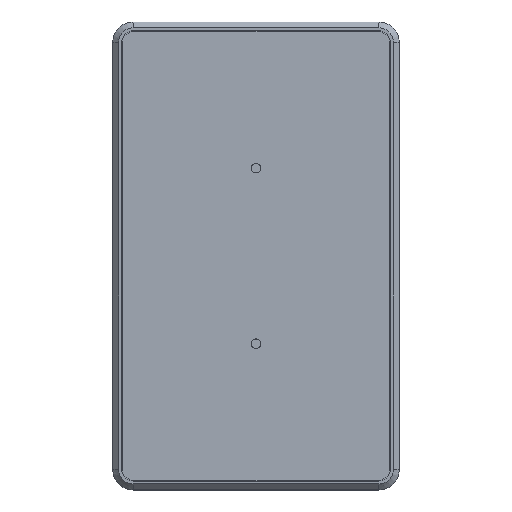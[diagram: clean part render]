
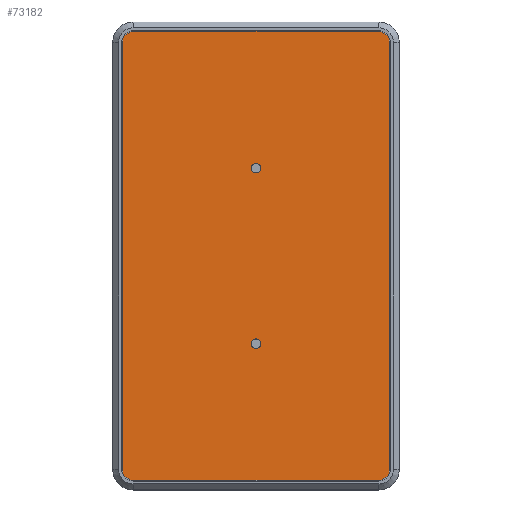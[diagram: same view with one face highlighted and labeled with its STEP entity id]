
A CAD part, top view. The second image highlights one B-rep face of the part: STEP entity #73182.
In plain terms, the highlighted planar face has unit normal (0, 0, 1).
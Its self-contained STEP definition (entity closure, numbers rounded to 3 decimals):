
#1148=FACE_BOUND('',#10978,.T.);
#1149=FACE_BOUND('',#10979,.T.);
#6880=FACE_OUTER_BOUND('',#10977,.T.);
#10977=EDGE_LOOP('',(#62265,#62266,#62267,#62268,#62269,#62270,#62271,#62272));
#10978=EDGE_LOOP('',(#62273));
#10979=EDGE_LOOP('',(#62274));
#17322=LINE('',#137382,#23682);
#17326=LINE('',#137394,#23686);
#17330=LINE('',#137406,#23690);
#17334=LINE('',#137417,#23694);
#23682=VECTOR('',#96233,10.);
#23686=VECTOR('',#96245,10.);
#23690=VECTOR('',#96257,10.);
#23694=VECTOR('',#96269,10.);
#26170=CIRCLE('',#78869,1.621);
#26171=CIRCLE('',#78871,1.621);
#26172=CIRCLE('',#78873,4.);
#26174=CIRCLE('',#78877,4.);
#26176=CIRCLE('',#78881,4.);
#26178=CIRCLE('',#78885,4.);
#32824=VERTEX_POINT('',#137364);
#32825=VERTEX_POINT('',#137368);
#32826=VERTEX_POINT('',#137372);
#32827=VERTEX_POINT('',#137373);
#32830=VERTEX_POINT('',#137381);
#32832=VERTEX_POINT('',#137387);
#32834=VERTEX_POINT('',#137393);
#32836=VERTEX_POINT('',#137399);
#32838=VERTEX_POINT('',#137405);
#32840=VERTEX_POINT('',#137411);
#42757=EDGE_CURVE('',#32824,#32824,#26170,.T.);
#42759=EDGE_CURVE('',#32825,#32825,#26171,.T.);
#42761=EDGE_CURVE('',#32826,#32827,#26172,.T.);
#42765=EDGE_CURVE('',#32827,#32830,#17322,.T.);
#42768=EDGE_CURVE('',#32830,#32832,#26174,.T.);
#42771=EDGE_CURVE('',#32832,#32834,#17326,.T.);
#42774=EDGE_CURVE('',#32834,#32836,#26176,.T.);
#42777=EDGE_CURVE('',#32836,#32838,#17330,.T.);
#42780=EDGE_CURVE('',#32838,#32840,#26178,.T.);
#42783=EDGE_CURVE('',#32840,#32826,#17334,.T.);
#62265=ORIENTED_EDGE('',*,*,#42761,.F.);
#62266=ORIENTED_EDGE('',*,*,#42783,.F.);
#62267=ORIENTED_EDGE('',*,*,#42780,.F.);
#62268=ORIENTED_EDGE('',*,*,#42777,.F.);
#62269=ORIENTED_EDGE('',*,*,#42774,.F.);
#62270=ORIENTED_EDGE('',*,*,#42771,.F.);
#62271=ORIENTED_EDGE('',*,*,#42768,.F.);
#62272=ORIENTED_EDGE('',*,*,#42765,.F.);
#62273=ORIENTED_EDGE('',*,*,#42757,.T.);
#62274=ORIENTED_EDGE('',*,*,#42759,.T.);
#65866=PLANE('',#78888);
#73182=ADVANCED_FACE('',(#6880,#1148,#1149),#65866,.T.);
#78869=AXIS2_PLACEMENT_3D('',#137365,#96215,#96216);
#78871=AXIS2_PLACEMENT_3D('',#137369,#96220,#96221);
#78873=AXIS2_PLACEMENT_3D('',#137374,#96225,#96226);
#78877=AXIS2_PLACEMENT_3D('',#137388,#96238,#96239);
#78881=AXIS2_PLACEMENT_3D('',#137400,#96250,#96251);
#78885=AXIS2_PLACEMENT_3D('',#137412,#96262,#96263);
#78888=AXIS2_PLACEMENT_3D('',#137419,#96271,#96272);
#96215=DIRECTION('center_axis',(0.,0.,
-1.));
#96216=DIRECTION('ref_axis',(1.,0.,0.));
#96220=DIRECTION('center_axis',(0.,0.,
-1.));
#96221=DIRECTION('ref_axis',(1.,0.,0.));
#96225=DIRECTION('center_axis',(0.,0.,
-1.));
#96226=DIRECTION('ref_axis',(-1.,0.,0.));
#96233=DIRECTION('',(0.,1.,0.));
#96238=DIRECTION('center_axis',(0.,0.,
-1.));
#96239=DIRECTION('ref_axis',(0.,1.,0.));
#96245=DIRECTION('',(1.,0.,0.));
#96250=DIRECTION('center_axis',(0.,0.,
-1.));
#96251=DIRECTION('ref_axis',(1.,0.,0.));
#96257=DIRECTION('',(0.,-1.,0.));
#96262=DIRECTION('center_axis',(0.,0.,
-1.));
#96263=DIRECTION('ref_axis',(0.,-1.,0.));
#96269=DIRECTION('',(-1.,0.,0.));
#96271=DIRECTION('center_axis',(0.,0.,
1.));
#96272=DIRECTION('ref_axis',(1.,0.,0.));
#137364=CARTESIAN_POINT('',(47.703,110.89,33.));
#137365=CARTESIAN_POINT('Origin',(49.324,110.89,33.));
#137368=CARTESIAN_POINT('',(47.703,50.89,33.));
#137369=CARTESIAN_POINT('Origin',(49.324,50.89,33.));
#137372=CARTESIAN_POINT('',(7.574,4.14,33.));
#137373=CARTESIAN_POINT('',(3.574,8.14,33.));
#137374=CARTESIAN_POINT('Origin',(7.574,8.14,33.));
#137381=CARTESIAN_POINT('',(3.574,153.64,33.));
#137382=CARTESIAN_POINT('',(3.574,153.64,33.));
#137387=CARTESIAN_POINT('',(7.574,157.64,33.));
#137388=CARTESIAN_POINT('Origin',(7.574,153.64,33.));
#137393=CARTESIAN_POINT('',(91.074,157.64,33.));
#137394=CARTESIAN_POINT('',(91.074,157.64,33.));
#137399=CARTESIAN_POINT('',(95.074,153.64,33.));
#137400=CARTESIAN_POINT('Origin',(91.074,153.64,33.));
#137405=CARTESIAN_POINT('',(95.074,8.14,33.));
#137406=CARTESIAN_POINT('',(95.074,8.14,33.));
#137411=CARTESIAN_POINT('',(91.074,4.14,33.));
#137412=CARTESIAN_POINT('Origin',(91.074,8.14,33.));
#137417=CARTESIAN_POINT('',(7.574,4.14,33.));
#137419=CARTESIAN_POINT('Origin',(49.324,80.89,33.));
